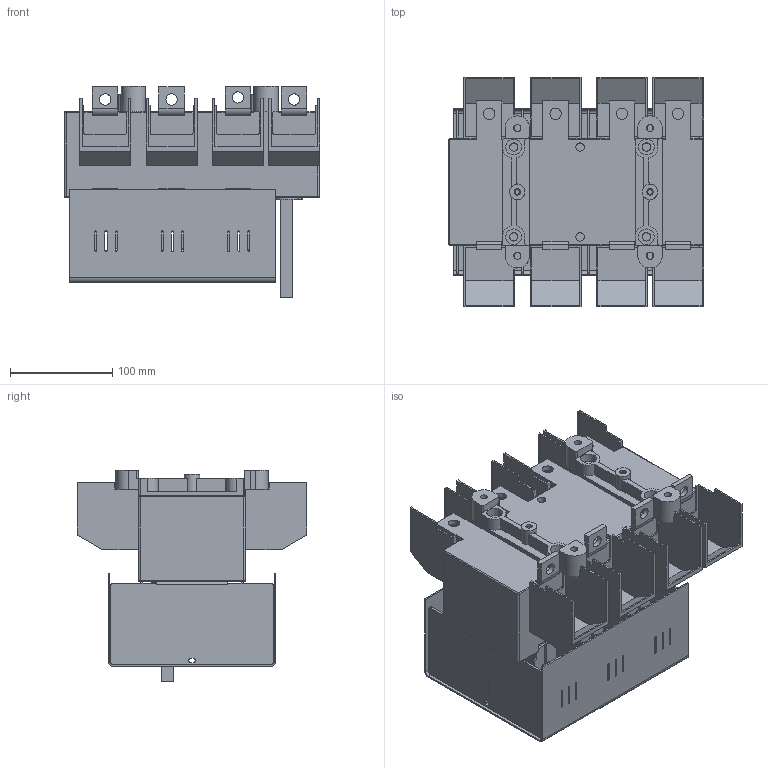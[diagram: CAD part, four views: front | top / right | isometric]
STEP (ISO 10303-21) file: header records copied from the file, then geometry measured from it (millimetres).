
FILE_DESCRIPTION(/* description */ (''),/* implementation_level */ '2;1');
FILE_NAME(/* name */ 'RAB 2 P3 NA z oslona zaciskow.stp',/* time_stamp */ '2021-08-19T13:40:12+02:00',/* author */ (''),/* organization */ (''),/* preprocessor_version */ 'ST-DEVELOPER v18.1',/* originating_system */ 'SIEMENS PLM Software NX 1965',/* authorisation */ '');
FILE_SCHEMA (('FEATURE_BASED_PROCESS_PLANNING','PROCESS_PLANNING_SCHEMA','AP242_MANAGED_MODEL_BASED_3D_ENGINEERING_MIM_LF { 1 0 10303 442 1 1 4 }'));
Length unit declared in the file: millimetre
Products named in the file (1): RAB 2 P3 NA z oslona zaciskow_stp
Bounding box: 250 x 225 x 207.3 mm (x, y, z)
Volume: 2595774.5 mm3; surface area: 609655.6 mm2
Topology: 1 solids, 7 shells, 1362 faces, 3818 edges, 2482 vertices
Faces by surface type: plane 952, cylinder 402, torus 5, bspline 3
Full cylindrical faces by diameter (mm): 4.8 x2, 5.2 x18, 6.2 x2, 7 x4, 8.2 x6, 11 x8, 14 x4, 15 x2, 15.5 x4
Entity records: 43621 total; most frequent: CARTESIAN_POINT 7738, ORIENTED_EDGE 7520, DIRECTION 7324, EDGE_CURVE 3760, LINE 2892, VECTOR 2892, VERTEX_POINT 2474, AXIS2_PLACEMENT_3D 2216
